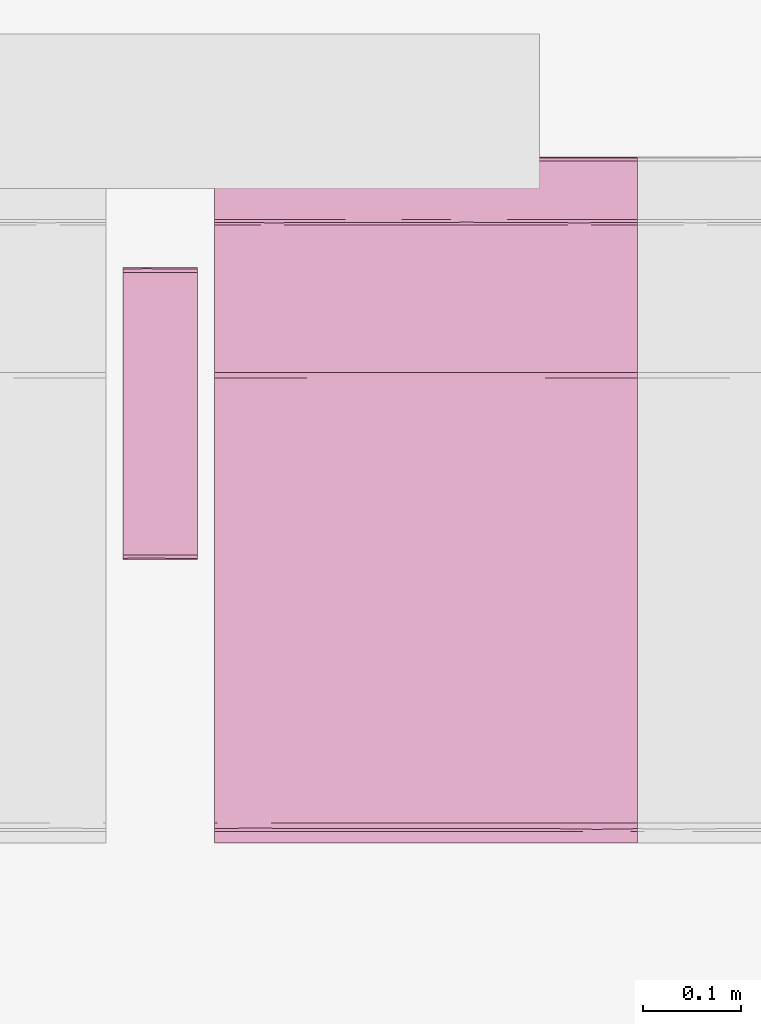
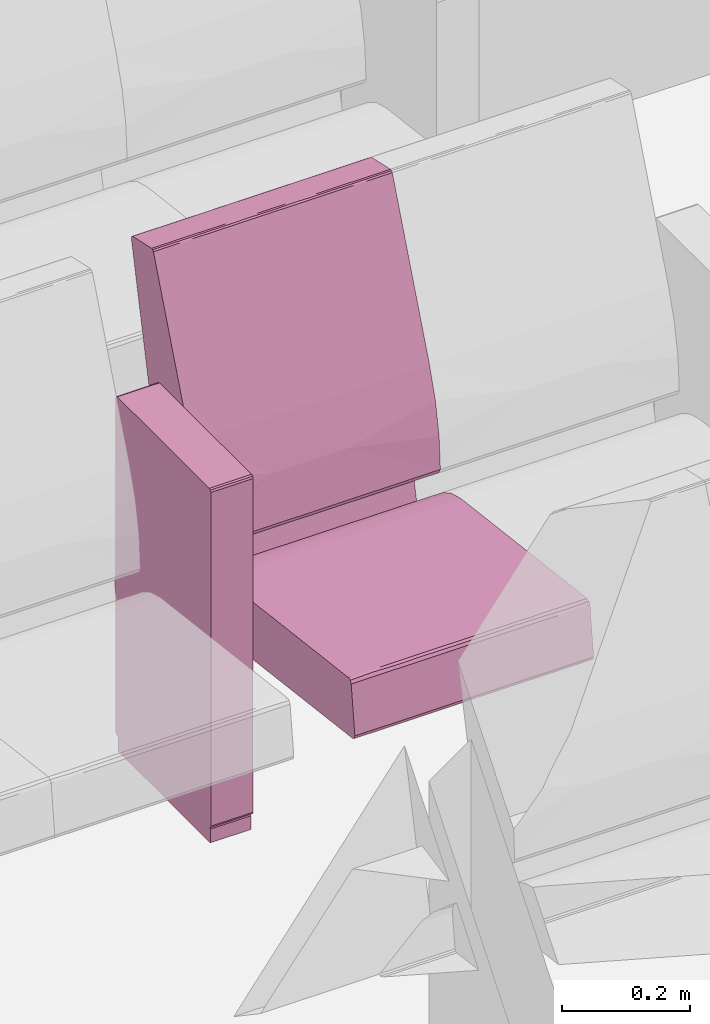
# One storey, part 121 of 155: 1 furnishing.
"""IFC2X3 building model written with IfcOpenShell, lengths in metres."""

from ifc_helpers import new_model, entity, si_unit, converted_unit, derived_unit, direction, frame, origin, place, context, subcontext, project, spatial, faceted_brep, source, transform, mapped, material, material_list, type_object, type_shapes, element, save


model = new_model("IFC2X3")

# Units and contexts
model_context = context("Model", 3, precision=1e-05, world=origin(), true_north=direction((6.12303176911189e-17, 1.0)))
body_context = subcontext(model_context, "Body", "Model", "MODEL_VIEW")
ifc_project = project(units=[si_unit("LENGTHUNIT", "METRE"), si_unit("AREAUNIT", "SQUARE_METRE"), si_unit("VOLUMEUNIT", "CUBIC_METRE"), converted_unit("PLANEANGLEUNIT", "DEGREE", entity("IfcRatioMeasure", 0.0174532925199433), si_unit("PLANEANGLEUNIT", "RADIAN"), dimensions=[0, 0, 0, 0, 0, 0, 0]), si_unit("MASSUNIT", "GRAM", prefix="KILO"), derived_unit("MASSDENSITYUNIT", [(si_unit("MASSUNIT", "GRAM", prefix="KILO"), 1), (si_unit("LENGTHUNIT", "METRE"), -3)]), si_unit("TIMEUNIT", "SECOND"), si_unit("FREQUENCYUNIT", "HERTZ"), si_unit("THERMODYNAMICTEMPERATUREUNIT", "DEGREE_CELSIUS"), derived_unit("THERMALTRANSMITTANCEUNIT", [(si_unit("MASSUNIT", "GRAM", prefix="KILO"), 1), (si_unit("THERMODYNAMICTEMPERATUREUNIT", "KELVIN"), -1), (si_unit("TIMEUNIT", "SECOND"), -3)]), derived_unit("VOLUMETRICFLOWRATEUNIT", [(si_unit("LENGTHUNIT", "METRE"), 3), (si_unit("TIMEUNIT", "SECOND"), -1)]), si_unit("ELECTRICCURRENTUNIT", "AMPERE"), si_unit("ELECTRICVOLTAGEUNIT", "VOLT"), si_unit("POWERUNIT", "WATT"), si_unit("FORCEUNIT", "NEWTON", prefix="KILO"), si_unit("ILLUMINANCEUNIT", "LUX"), si_unit("LUMINOUSFLUXUNIT", "LUMEN"), si_unit("LUMINOUSINTENSITYUNIT", "CANDELA"), derived_unit("USERDEFINED", [(si_unit("MASSUNIT", "GRAM", prefix="KILO"), -1), (si_unit("LENGTHUNIT", "METRE"), -2), (si_unit("TIMEUNIT", "SECOND"), 3), (si_unit("LUMINOUSFLUXUNIT", "LUMEN"), 1)]), derived_unit("LINEARVELOCITYUNIT", [(si_unit("LENGTHUNIT", "METRE"), 1), (si_unit("TIMEUNIT", "SECOND"), -1)]), si_unit("PRESSUREUNIT", "PASCAL"), derived_unit("USERDEFINED", [(si_unit("LENGTHUNIT", "METRE"), -2), (si_unit("MASSUNIT", "GRAM", prefix="KILO"), 1), (si_unit("TIMEUNIT", "SECOND"), -2)])], contexts=[model_context])

# Site, building, storey, space
site_placement = place(None, frame((26.9889013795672, -17.5624287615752, 0.0)))
site = spatial("IfcSite", under=ifc_project, at=site_placement, Name="Default", CompositionType="ELEMENT")
building_placement = place(site_placement, origin())
building = spatial("IfcBuilding", under=site, at=building_placement, Name="C. C. L. Monsenhor Antônio Sampaio", CompositionType="ELEMENT")
storey_placement = place(building_placement, frame((0.0, 0.0, 1.19999999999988)))
storey = spatial("IfcBuildingStorey", under=building, at=storey_placement, Name="Nível 1.2", CompositionType="ELEMENT", Elevation=1.19999999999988)
space_placement = place(storey_placement, origin())
space = spatial("IfcSpace", under=storey, at=space_placement, Name="94", CompositionType="ELEMENT", InteriorOrExteriorSpace="INTERNAL")

# Furnishing
ifc_material_1 = material(Name="V9 - V9 - Ecopelle_672_658")
ifc_material_2 = material(Name="V9 - V9 - RAL_9006_Grigio")
ifc_material_list_1 = material_list([ifc_material_1, ifc_material_2])
ifc_material_list_2 = material_list([ifc_material_1, ifc_material_2])
furniture_type = type_object("IfcFurnitureType", Name="Cadeira auditório", material=ifc_material_list_2)
shared_shape = source(origin(), body_context, "Body", "Brep", [
    faceted_brep([(0.405536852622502, 0.156348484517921, 0.339809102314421), (0.410560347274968, 0.131924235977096, 0.34246450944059), (0.405536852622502, 0.1075, 0.339809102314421), (0.405536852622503, 0.0537499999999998, 0.339809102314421), (0.410597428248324, 0.084060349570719, 0.342506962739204), (0.41079981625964, 0.0179166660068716, 0.342749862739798), (0.405536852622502, 0.215, 0.339809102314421), (0.410248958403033, 0.173608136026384, 0.342130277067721), (0.412515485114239, 0.185674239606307, 0.348529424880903), (0.412515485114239, 0.143333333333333, 0.348529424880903), (0.410560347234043, -0.131924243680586, 0.342464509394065), (0.405536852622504, -0.156348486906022, 0.33980910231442), (0.405536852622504, -0.1075, 0.33980910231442), (0.405536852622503, 0.0, 0.33980910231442), (0.41251548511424, 0.0, 0.348529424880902), (0.411170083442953, -0.0341365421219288, 0.343251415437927), (0.41059742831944, -0.0840603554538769, 0.342506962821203), (0.41251548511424, -0.143333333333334, 0.348529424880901), (0.412515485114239, 0.0358333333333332, 0.348529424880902), (0.412515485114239, 0.0716666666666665, 0.348529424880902), (0.405536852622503, -0.0537500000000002, 0.33980910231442), (0.412515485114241, -0.185674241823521, 0.348529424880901), (0.410799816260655, -0.215, 0.342749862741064), (0.410248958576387, -0.173608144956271, 0.342130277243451), (0.410799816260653, 0.215, 0.342749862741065), (0.412515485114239, 0.215, 0.348529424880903), (0.412515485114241, -0.215, 0.348529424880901), (0.41251548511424, -0.0716666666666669, 0.348529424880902), (0.405536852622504, -0.215, 0.33980910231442), (-0.0557900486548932, -0.215, 0.28268145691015), (-0.055790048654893, -0.168631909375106, 0.282681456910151), (-0.0557900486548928, -0.138065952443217, 0.282681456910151), (-0.0557900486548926, -0.107499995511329, 0.282681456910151), (-0.0557900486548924, -0.0806249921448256, 0.282681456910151), (-0.0557900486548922, -0.0537499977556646, 0.282681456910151), (-0.0557900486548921, -0.0268750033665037, 0.282681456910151), (-0.0557900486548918, 0.0, 0.28268145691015), (-0.0557900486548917, 0.0268749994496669, 0.282681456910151), (-0.0557900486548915, 0.0537499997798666, 0.282681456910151), (-0.0557900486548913, 0.0806250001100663, 0.282681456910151), (-0.0557900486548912, 0.107499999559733, 0.282681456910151), (-0.055790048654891, 0.134374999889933, 0.282681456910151), (-0.0557900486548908, 0.161250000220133, 0.282681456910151), (-0.0557900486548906, 0.1881249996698, 0.282681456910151), (-0.0557900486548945, 0.215, 0.28268145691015), (-0.0594787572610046, -0.0152829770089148, 0.283700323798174), (-0.0613666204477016, 0.0, 0.287029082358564), (-0.0594787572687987, 0.0179017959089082, 0.283700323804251), (-0.0613666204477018, 0.191815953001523, 0.287029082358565), (-0.0613666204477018, 0.215, 0.287029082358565), (-0.0594787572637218, 0.215, 0.283700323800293), (-0.0593340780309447, 0.0671874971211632, 0.283591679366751), (-0.0613666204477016, 0.030565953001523, 0.287029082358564), (-0.0594787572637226, -0.215, 0.283700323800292), (-0.0593337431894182, -0.184174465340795, 0.283591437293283), (-0.0613666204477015, -0.122263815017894, 0.287029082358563), (-0.0613666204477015, -0.0916978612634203, 0.287029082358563), (-0.0613666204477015, -0.0611319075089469, 0.287029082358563), (-0.0593023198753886, -0.0940625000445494, 0.283568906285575), (-0.059382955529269, 0.118123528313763, 0.28362747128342), (-0.0613666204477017, 0.122263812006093, 0.287029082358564), (-0.0597338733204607, 0.147039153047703, 0.283913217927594), (-0.0613666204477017, 0.168631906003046, 0.287029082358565), (-0.0592501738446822, 0.180223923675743, 0.283532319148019), (-0.0588783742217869, 0.0926899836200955, 0.283298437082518), (-0.0613666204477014, -0.215, 0.287029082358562), (-0.0613666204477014, -0.168631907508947, 0.287029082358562), (-0.0592576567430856, -0.123736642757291, 0.283537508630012), (-0.0594787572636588, -0.153348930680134, 0.283700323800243), (-0.0613666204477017, 0.0916978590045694, 0.287029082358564), (-0.0613666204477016, -0.0305659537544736, 0.287029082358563), (-0.059645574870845, -0.045848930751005, 0.283836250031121), (-0.0613666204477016, 0.0611319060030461, 0.287029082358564), (-0.069340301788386, -0.215, 0.351419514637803), (-0.0693403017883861, -0.143333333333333, 0.351419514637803), (-0.0693403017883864, -0.0716666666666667, 0.351419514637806), (-0.0693403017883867, 0.0, 0.351419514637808), (-0.069340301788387, 0.0716666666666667, 0.351419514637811), (-0.0693403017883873, 0.143333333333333, 0.351419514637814), (-0.0693403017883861, 0.215, 0.351419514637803), (-0.0597085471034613, 0.0, 0.37476954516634), (-0.0645543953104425, 0.112272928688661, 0.369803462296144), (-0.0653387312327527, 0.0126787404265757, 0.368680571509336), (-0.0681665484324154, -0.0888707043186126, 0.36292533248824), (-0.0655136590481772, -0.10440004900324, 0.368411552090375), (-0.0694879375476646, 0.0590582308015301, 0.356377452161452), (-0.0695056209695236, -0.125492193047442, 0.356093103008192), (-0.0597085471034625, -0.110316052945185, 0.374769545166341), (-0.0690003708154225, 0.132942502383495, 0.359900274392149), (-0.0672851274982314, 0.108066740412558, 0.365148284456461), (-0.0676206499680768, 0.215, 0.364371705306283), (-0.0686241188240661, 0.215, 0.356813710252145), (-0.0686241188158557, -0.214999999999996, 0.356813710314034), (-0.0686999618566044, 0.0358333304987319, 0.36116674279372), (-0.0694502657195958, -0.0358333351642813, 0.356863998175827), (-0.0676206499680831, -0.214999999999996, 0.364371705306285), (-0.0636645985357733, -0.214999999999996, 0.369570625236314), (-0.0597085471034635, -0.214999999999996, 0.374769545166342), (-0.0597085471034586, 0.215, 0.374769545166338), (-0.0636645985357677, 0.215, 0.36957062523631), (-0.0597085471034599, 0.110316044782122, 0.374769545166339), (-0.0324117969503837, 0.215, 0.390639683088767), (-0.0324117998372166, 0.0436847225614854, 0.39063968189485), (-0.0018793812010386, 0.215, 0.398686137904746), (-0.041847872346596, -0.0856576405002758, 0.386239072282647), (-0.0324117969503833, -0.215, 0.390639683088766), (-0.00187938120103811, -0.215, 0.398686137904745), (-0.00187938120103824, -0.102488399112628, 0.398686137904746), (-0.0219042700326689, -0.0570631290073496, 0.394412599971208), (-0.00187938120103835, 0.0, 0.398686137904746), (0.392202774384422, 0.215, 0.447486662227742), (0.392202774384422, -0.215, 0.447486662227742), (0.392202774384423, -0.156349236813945, 0.447486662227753), (0.392202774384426, -0.107499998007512, 0.447486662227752), (0.392202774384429, -0.0537500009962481, 0.44748666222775), (0.392202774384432, 0.0, 0.447486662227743), (0.392202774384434, 0.0537499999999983, 0.447486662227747), (0.392202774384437, 0.107499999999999, 0.447486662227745), (0.392202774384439, 0.156349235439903, 0.447486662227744), (0.398104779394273, -0.131924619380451, 0.445856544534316), (0.401125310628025, -0.0976984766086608, 0.440530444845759), (0.397860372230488, -0.0827732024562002, 0.446039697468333), (0.401125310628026, -0.215000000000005, 0.440530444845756), (0.401125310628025, -0.156349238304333, 0.440530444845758), (0.397373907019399, -0.173462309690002, 0.446363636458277), (0.398104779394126, -0.215000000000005, 0.445856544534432), (0.397860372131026, 0.0827731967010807, 0.446039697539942), (0.398104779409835, 0.131924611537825, 0.445856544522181), (0.398104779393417, -0.0237489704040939, 0.445856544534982), (0.398104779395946, 0.0268749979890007, 0.445856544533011), (0.401125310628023, 0.0488492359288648, 0.440530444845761), (0.401125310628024, -0.0488492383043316, 0.440530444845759), (0.398774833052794, 0.173462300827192, 0.445271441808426), (0.401125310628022, 0.097698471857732, 0.440530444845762), (0.401125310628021, 0.215, 0.440530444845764), (0.39810477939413, 0.215, 0.445856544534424), (0.401125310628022, 0.156349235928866, 0.440530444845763), (0.401125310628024, 0.0, 0.44053044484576)], [[[0, 1, 2]], [[3, 4, 5]], [[6, 7, 0]], [[7, 8, 9]], [[10, 11, 12]], [[3, 5, 13]], [[14, 15, 5]], [[16, 17, 10]], [[9, 1, 7]], [[18, 5, 4]], [[4, 9, 19, 18]], [[9, 4, 1]], [[2, 1, 4]], [[13, 15, 20]], [[21, 22, 23]], [[5, 18, 14]], [[24, 25, 8]], [[22, 21, 26]], [[24, 7, 6]], [[23, 11, 10]], [[20, 15, 16]], [[3, 2, 4]], [[14, 27, 15]], [[5, 15, 13]], [[27, 17, 16]], [[10, 12, 16]], [[21, 23, 17]], [[20, 16, 12]], [[15, 27, 16]], [[7, 1, 0]], [[28, 11, 23]], [[8, 7, 24]], [[23, 10, 17]], [[28, 23, 22]], [[28, 29, 30, 31, 32, 33, 34, 35, 36, 37, 38, 39, 40, 41, 42, 43, 44, 6, 0, 2, 3, 13, 20, 12, 11]], [[45, 46, 47]], [[48, 49, 50]], [[51, 47, 52]], [[29, 53, 54]], [[55, 56, 57, 58]], [[59, 60, 61]], [[61, 62, 63]], [[51, 64, 39]], [[65, 66, 54]], [[31, 67, 32]], [[45, 47, 38, 37, 36, 35]], [[68, 31, 30]], [[43, 50, 44]], [[63, 42, 61]], [[48, 50, 63]], [[64, 69, 59]], [[68, 54, 66]], [[63, 62, 48]], [[50, 43, 63]], [[67, 55, 58]], [[61, 42, 41]], [[45, 70, 46]], [[55, 68, 66]], [[71, 33, 58]], [[71, 57, 70]], [[41, 40, 59]], [[60, 62, 61]], [[71, 35, 34, 33]], [[35, 71, 45]], [[47, 46, 52]], [[45, 71, 70]], [[58, 57, 71]], [[32, 58, 33]], [[31, 68, 67]], [[54, 68, 30]], [[29, 54, 30]], [[54, 53, 65]], [[55, 67, 68]], [[32, 67, 58]], [[51, 52, 72, 69]], [[43, 42, 63]], [[41, 59, 61]], [[47, 51, 38]], [[40, 39, 64]], [[38, 51, 39]], [[69, 60, 59]], [[69, 64, 51]], [[40, 64, 59]], [[65, 73, 74, 75, 76, 77, 78, 79, 49, 48, 62, 60, 69, 72, 52, 46, 70, 57, 56, 55, 66]], [[80, 81, 82]], [[82, 83, 84]], [[78, 77, 76, 85]], [[86, 75, 74]], [[84, 80, 82]], [[80, 84, 87]], [[88, 89, 90]], [[91, 79, 78]], [[74, 73, 92]], [[85, 88, 91]], [[81, 89, 82]], [[93, 94, 83]], [[94, 86, 83]], [[85, 76, 94]], [[92, 86, 74]], [[85, 94, 93]], [[83, 92, 95]], [[75, 94, 76]], [[93, 83, 82]], [[95, 96, 84]], [[88, 85, 93]], [[96, 97, 87]], [[98, 99, 100]], [[78, 85, 91]], [[89, 88, 93]], [[90, 91, 88]], [[93, 82, 89]], [[81, 99, 89]], [[99, 90, 89]], [[100, 81, 80]], [[100, 99, 81]], [[83, 86, 92]], [[75, 86, 94]], [[95, 84, 83]], [[87, 84, 96]], [[101, 102, 103]], [[104, 80, 87, 97]], [[105, 106, 107]], [[107, 108, 105]], [[103, 102, 109]], [[104, 102, 80]], [[104, 108, 102]], [[98, 102, 101]], [[105, 104, 97]], [[105, 108, 104]], [[102, 98, 100, 80]], [[109, 108, 107]], [[109, 102, 108]], [[110, 103, 109, 107, 106, 111, 112, 113, 114, 115, 116, 117, 118]], [[119, 120, 121]], [[122, 123, 124]], [[111, 125, 124]], [[117, 116, 126]], [[124, 119, 112]], [[113, 112, 119]], [[127, 118, 117]], [[115, 114, 128, 129, 116]], [[129, 130, 126]], [[121, 131, 128]], [[127, 132, 118]], [[110, 118, 132]], [[127, 126, 133]], [[119, 124, 123]], [[134, 135, 132]], [[136, 132, 127]], [[120, 119, 123]], [[133, 136, 127]], [[137, 130, 129, 128, 131]], [[126, 127, 117]], [[130, 133, 126]], [[113, 119, 121]], [[129, 126, 116]], [[128, 114, 121]], [[114, 113, 121]], [[131, 121, 120]], [[111, 124, 112]], [[124, 125, 122]], [[134, 132, 136]], [[132, 135, 110]], [[19, 9, 8, 25, 134, 136, 133, 130, 137, 131, 120, 123, 122, 26, 21, 17, 27, 14, 18]], [[65, 53, 29, 28, 22, 26, 122, 125, 111, 106, 105, 97, 96, 95, 92, 73]], [[98, 101, 103, 110, 135, 134, 25, 24, 6, 44, 50, 49, 79, 91, 90, 99]]]),
    faceted_brep([(0.123144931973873, -0.283972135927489, 0.673627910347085), (0.12334838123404, -0.259944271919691, 0.6734355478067), (0.119812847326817, -0.27, 0.674900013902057), (0.124812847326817, -0.27, 0.669900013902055), (0.12334838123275, -0.232, 0.673435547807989), (0.119812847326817, -0.232, 0.674900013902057), (0.124812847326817, -0.308, 0.669900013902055), (0.119812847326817, -0.308, 0.674900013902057), (0.124812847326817, -0.249888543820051, 0.669900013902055), (0.124812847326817, -0.232, 0.669900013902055), (0.12334838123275, -0.308, 0.673435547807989), (0.124812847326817, -0.27, 0.035), (0.124812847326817, -0.232, 0.035), (0.124812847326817, -0.308, 0.0350000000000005), (0.123540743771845, -0.283972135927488, 0.0316679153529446), (0.12334838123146, -0.25994427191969, 0.0314644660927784), (0.119812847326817, -0.27, 0.0300000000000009), (0.12334838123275, -0.232, 0.0314644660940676), (0.119812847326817, -0.308, 0.0300000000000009), (0.119812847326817, -0.249888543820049, 0.030000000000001), (0.119812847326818, -0.232, 0.030000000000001), (0.123348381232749, -0.308, 0.0314644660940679), (-0.167179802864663, -0.308, 0.0300000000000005), (-0.167179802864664, -0.27, 0.0300000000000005), (-0.167179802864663, -0.232, 0.0300000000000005), (-0.17051188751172, -0.283972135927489, 0.0312721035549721), (-0.170715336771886, -0.25994427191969, 0.0314644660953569), (-0.172179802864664, -0.27, 0.0350000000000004), (-0.170715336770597, -0.232, 0.0314644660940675), (-0.172179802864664, -0.308, 0.0350000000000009), (-0.172179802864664, -0.24988854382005, 0.0350000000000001), (-0.172179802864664, -0.232, 0.0349999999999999), (-0.170715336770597, -0.308, 0.0314644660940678), (-0.172179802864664, -0.308, 0.669900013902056), (-0.172179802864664, -0.27, 0.669900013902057), (-0.172179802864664, -0.232, 0.669900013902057), (-0.170907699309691, -0.283972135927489, 0.673232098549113), (-0.170715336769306, -0.259944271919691, 0.673435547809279), (-0.167179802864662, -0.27, 0.674900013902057), (-0.170715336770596, -0.232, 0.67343554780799), (-0.167179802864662, -0.308, 0.674900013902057), (-0.167179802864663, -0.249888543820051, 0.674900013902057), (-0.167179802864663, -0.232, 0.674900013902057), (-0.170715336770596, -0.308, 0.67343554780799)], [[[0, 1, 2]], [[1, 0, 3]], [[1, 4, 5, 2]], [[6, 3, 0]], [[7, 0, 2]], [[4, 1, 3, 8, 9]], [[10, 0, 7]], [[0, 10, 6]], [[11, 12, 9, 8, 3, 6, 13]], [[14, 15, 11]], [[15, 14, 16]], [[15, 17, 12, 11]], [[18, 16, 14]], [[13, 14, 11]], [[17, 15, 16, 19, 20]], [[21, 14, 13]], [[14, 21, 18]], [[18, 22, 23, 24, 20, 19, 16]], [[25, 26, 23]], [[26, 25, 27]], [[26, 28, 24, 23]], [[29, 27, 25]], [[22, 25, 23]], [[28, 26, 27, 30, 31]], [[32, 25, 22]], [[25, 32, 29]], [[27, 29, 33, 34, 35, 31, 30]], [[36, 37, 34]], [[37, 36, 38]], [[37, 39, 35, 34]], [[40, 38, 36]], [[33, 36, 34]], [[39, 37, 38, 41, 42]], [[43, 36, 33]], [[36, 43, 40]], [[40, 7, 2, 5, 42, 41, 38]], [[35, 39, 42, 5, 4, 9, 12, 17, 20, 24, 28, 31]], [[29, 32, 22, 18, 21, 13, 6, 10, 7, 40, 43, 33]]]),
    faceted_brep([(-0.0695672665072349, 0.215, 0.476508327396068), (-0.074405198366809, 0.0524423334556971, 0.506888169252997), (-0.0655618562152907, 0.215, 0.415143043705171), (-0.0744051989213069, -0.0780075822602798, 0.506888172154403), (-0.0655618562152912, 0.0, 0.415143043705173), (-0.0655618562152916, -0.215, 0.415143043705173), (-0.0655618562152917, -0.1075, 0.415143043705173), (-0.0655618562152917, 0.1075, 0.415143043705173), (-0.0695672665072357, -0.215, 0.476508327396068), (-0.081111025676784, -0.215, 0.536911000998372), (-0.0811110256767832, 0.215, 0.536911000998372), (-0.100016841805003, 0.215, 0.595428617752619), (-0.100016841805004, 0.0, 0.595428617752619), (-0.100016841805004, -0.215, 0.595428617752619), (-0.0698317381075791, 0.0358333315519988, 0.406528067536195), (-0.0792851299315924, 0.0, 0.404772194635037), (-0.0792851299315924, 0.0716666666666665, 0.404772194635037), (-0.0792851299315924, -0.215, 0.404772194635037), (-0.0792851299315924, -0.143333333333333, 0.404772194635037), (-0.0698317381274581, -0.215, 0.406528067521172), (-0.0792851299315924, 0.143333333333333, 0.404772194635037), (-0.0792851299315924, 0.215, 0.404772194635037), (-0.0698317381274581, 0.215, 0.406528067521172), (-0.0694171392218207, 0.140338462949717, 0.406857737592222), (-0.0708115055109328, -0.0356393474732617, 0.405868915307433), (-0.0703502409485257, -0.107500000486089, 0.406159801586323), (-0.0792851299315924, -0.0716666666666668, 0.404772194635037), (-0.163837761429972, -0.215, 0.420611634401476), (-0.163837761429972, 0.215, 0.420611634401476), (-0.123612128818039, 0.215, 0.235917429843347), (-0.123612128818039, -0.215, 0.235917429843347), (-0.142059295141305, -0.215, 0.231899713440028), (-0.142059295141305, 0.215, 0.231899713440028), (-0.235388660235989, -0.215, 0.652619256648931), (-0.235388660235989, 0.215, 0.652619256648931), (-0.28428001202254, -0.215, 0.873004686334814), (-0.284280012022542, -0.191295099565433, 0.873004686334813), (-0.284280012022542, -0.161249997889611, 0.873004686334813), (-0.284280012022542, -0.134374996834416, 0.873004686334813), (-0.284280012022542, -0.107499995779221, 0.873004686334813), (-0.284280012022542, -0.0806249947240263, 0.873004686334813), (-0.284280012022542, -0.0537499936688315, 0.873004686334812), (-0.284280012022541, -0.0268749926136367, 0.873004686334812), (-0.28428001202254, 0.0, 0.873004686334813), (-0.284280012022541, 0.0268749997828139, 0.873004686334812), (-0.284280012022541, 0.0537500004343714, 0.873004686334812), (-0.284280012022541, 0.0806250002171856, 0.873004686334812), (-0.284280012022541, 0.1075, 0.873004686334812), (-0.284280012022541, 0.134374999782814, 0.873004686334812), (-0.28428001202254, 0.161249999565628, 0.873004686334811), (-0.28428001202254, 0.191295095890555, 0.873004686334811), (-0.28428001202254, 0.215, 0.873004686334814), (-0.283746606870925, 0.0872244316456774, 0.876674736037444), (-0.283504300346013, 0.0569644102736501, 0.877068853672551), (-0.283567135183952, -0.15546176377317, 0.876973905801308), (-0.283641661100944, -0.12093750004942, 0.87685511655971), (-0.283567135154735, 0.155461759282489, 0.876973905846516), (-0.28330409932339, 0.185293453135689, 0.877344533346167), (-0.283641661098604, 0.0179166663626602, 0.876855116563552), (-0.283641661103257, -0.0136463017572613, 0.876855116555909), (-0.280514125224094, -0.0358333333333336, 0.879190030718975), (-0.280514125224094, 0.0, 0.879190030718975), (-0.280514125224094, 0.0358333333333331, 0.879190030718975), (-0.280514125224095, -0.143333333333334, 0.879190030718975), (-0.280514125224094, -0.1075, 0.879190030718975), (-0.280514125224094, -0.071666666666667, 0.879190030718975), (-0.283746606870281, -0.0872244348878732, 0.876674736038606), (-0.280514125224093, 0.0716666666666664, 0.879190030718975), (-0.280514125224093, 0.1075, 0.879190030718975), (-0.283641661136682, 0.120937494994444, 0.876855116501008), (-0.280514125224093, 0.143333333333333, 0.879190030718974), (-0.283641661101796, 0.215, 0.876855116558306), (-0.283641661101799, -0.215, 0.876855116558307), (-0.283304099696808, -0.18529345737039, 0.877344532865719), (-0.280514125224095, -0.167590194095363, 0.879190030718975), (-0.280514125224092, 0.215, 0.879190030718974), (-0.280514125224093, 0.167590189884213, 0.879190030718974), (-0.280514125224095, -0.215, 0.879190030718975), (-0.283504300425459, -0.0569644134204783, 0.8770688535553), (-0.22111253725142, 0.215, 0.892176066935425), (-0.22111253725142, -0.215, 0.892176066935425), (-0.221112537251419, -0.191815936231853, 0.892176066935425), (-0.221112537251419, -0.161250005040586, 0.892176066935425), (-0.221112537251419, -0.134375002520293, 0.892176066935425), (-0.221112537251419, -0.1075, 0.892176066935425), (-0.221112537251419, -0.080624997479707, 0.892176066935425), (-0.221112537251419, -0.0537499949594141, 0.892176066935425), (-0.221112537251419, -0.0268750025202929, 0.892176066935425), (-0.221112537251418, 0.0, 0.892176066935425), (-0.221112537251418, 0.0268750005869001, 0.892176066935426), (-0.221112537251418, 0.05375000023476, 0.892176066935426), (-0.221112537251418, 0.0806249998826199, 0.892176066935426), (-0.221112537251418, 0.10749999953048, 0.892176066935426), (-0.221112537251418, 0.13437499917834, 0.892176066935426), (-0.221112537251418, 0.16124999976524, 0.892176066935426), (-0.221112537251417, 0.19181594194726, 0.892176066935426), (-0.215419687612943, 0.0, 0.889191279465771), (-0.215419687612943, 0.0358333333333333, 0.889191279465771), (-0.217722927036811, 0.0162353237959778, 0.891719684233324), (-0.217722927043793, -0.0134375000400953, 0.891719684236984), (-0.215419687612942, -0.191815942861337, 0.889191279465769), (-0.215419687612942, -0.168631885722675, 0.889191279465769), (-0.217722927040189, -0.182482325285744, 0.891719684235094), (-0.217722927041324, -0.215, 0.891719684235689), (-0.215419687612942, -0.215, 0.889191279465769), (-0.215419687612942, -0.1075, 0.88919127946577), (-0.215419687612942, -0.0716666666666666, 0.88919127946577), (-0.217722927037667, -0.0912646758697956, 0.891719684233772), (-0.217722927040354, -0.120937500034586, 0.89171968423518), (-0.215419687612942, -0.143333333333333, 0.88919127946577), (-0.215419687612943, 0.191815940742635, 0.889191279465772), (-0.215419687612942, 0.215, 0.889191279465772), (-0.217722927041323, 0.215, 0.89171968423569), (-0.217722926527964, 0.190103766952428, 0.891719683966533), (-0.217722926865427, 0.0912646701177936, 0.891719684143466), (-0.217816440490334, 0.0647800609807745, 0.891767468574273), (-0.215419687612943, 0.0716666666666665, 0.889191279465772), (-0.217816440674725, -0.0647800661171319, 0.891767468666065), (-0.2179983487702, -0.0390825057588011, 0.891853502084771), (-0.217558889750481, -0.155982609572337, 0.891629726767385), (-0.217722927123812, 0.120937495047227, 0.891719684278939), (-0.215419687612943, 0.16863188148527, 0.889191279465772), (-0.215419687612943, 0.143333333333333, 0.889191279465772), (-0.217558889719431, 0.15598260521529, 0.891629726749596), (-0.215419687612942, -0.0358333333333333, 0.889191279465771), (-0.215419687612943, 0.1075, 0.889191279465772), (-0.218257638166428, 0.0404491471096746, 0.891961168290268)], [[[0, 1, 2]], [[1, 3, 4]], [[3, 5, 6, 4]], [[1, 4, 7, 2]], [[5, 3, 8]], [[8, 3, 9]], [[0, 10, 1]], [[11, 12, 1]], [[3, 13, 9]], [[3, 12, 13]], [[11, 1, 10]], [[3, 1, 12]], [[14, 15, 16]], [[17, 18, 19]], [[20, 21, 22]], [[2, 23, 22]], [[14, 7, 4]], [[14, 24, 15]], [[6, 25, 24]], [[22, 23, 20]], [[14, 23, 7]], [[19, 6, 5]], [[4, 24, 14]], [[16, 23, 14]], [[16, 20, 23]], [[26, 25, 18]], [[25, 19, 18]], [[15, 24, 26]], [[23, 2, 7]], [[19, 25, 6]], [[26, 24, 25]], [[6, 24, 4]], [[15, 26, 18, 17, 27, 28, 21, 20, 16]], [[29, 28, 27, 30]], [[30, 31, 32, 29]], [[32, 31, 33, 34]], [[34, 33, 35, 36, 37, 38, 39, 40, 41, 42, 43, 44, 45, 46, 47, 48, 49, 50, 51]], [[52, 46, 53]], [[38, 54, 55]], [[56, 57, 49]], [[58, 59, 60, 61, 62]], [[63, 64, 55]], [[64, 65, 66]], [[52, 67, 68]], [[69, 70, 56]], [[49, 57, 50]], [[38, 55, 39]], [[71, 51, 50]], [[36, 35, 72]], [[59, 58, 44, 43, 42]], [[73, 74, 54]], [[55, 66, 39]], [[75, 57, 76]], [[77, 74, 73]], [[69, 52, 68]], [[37, 36, 73]], [[54, 74, 63]], [[56, 76, 57]], [[36, 72, 73]], [[75, 71, 57]], [[70, 76, 56]], [[52, 69, 47]], [[48, 47, 69]], [[42, 78, 59]], [[66, 55, 64]], [[50, 57, 71]], [[73, 54, 37]], [[77, 73, 72]], [[48, 69, 56]], [[56, 49, 48]], [[69, 68, 70]], [[53, 46, 45, 44]], [[58, 62, 53]], [[53, 44, 58]], [[38, 37, 54]], [[63, 55, 54]], [[78, 66, 65]], [[78, 40, 66]], [[67, 52, 53]], [[78, 42, 41, 40]], [[65, 60, 78]], [[59, 78, 60]], [[52, 47, 46]], [[40, 39, 66]], [[62, 67, 53]], [[79, 75, 76, 70, 68, 67, 62, 61, 60, 65, 64, 63, 74, 77, 80, 81, 82, 83, 84, 85, 86, 87, 88, 89, 90, 91, 92, 93, 94, 95]], [[96, 97, 98, 99]], [[100, 101, 102, 103, 104]], [[105, 106, 107, 108, 109]], [[110, 111, 112]], [[113, 112, 95]], [[114, 115, 116]], [[117, 118, 86]], [[82, 119, 83]], [[102, 82, 81, 80, 103]], [[112, 79, 95]], [[108, 107, 85, 84, 83]], [[88, 87, 99, 98, 89]], [[119, 101, 109]], [[93, 92, 120]], [[117, 85, 107]], [[113, 121, 110]], [[122, 121, 123]], [[113, 94, 123]], [[124, 99, 118]], [[122, 123, 120]], [[108, 119, 109]], [[113, 110, 112]], [[102, 101, 119]], [[119, 108, 83]], [[114, 125, 120]], [[123, 94, 93]], [[93, 120, 123]], [[114, 120, 92]], [[122, 120, 125]], [[117, 107, 106]], [[114, 92, 91]], [[116, 125, 114]], [[115, 91, 90]], [[85, 117, 86]], [[126, 89, 98]], [[117, 106, 124]], [[118, 99, 87]], [[124, 96, 99]], [[97, 116, 115]], [[97, 115, 126]], [[86, 118, 87]], [[124, 118, 117]], [[91, 115, 114]], [[115, 90, 126]], [[89, 126, 90]], [[97, 126, 98]], [[82, 102, 119]], [[94, 113, 95]], [[121, 113, 123]], [[11, 111, 110, 121, 122, 125, 116, 97, 96, 124, 106, 105, 109, 101, 100, 104, 13, 12]], [[27, 17, 19, 5, 8, 9, 13, 104, 103, 80, 77, 72, 35, 33, 31, 30]], [[51, 71, 75, 79, 112, 111, 11, 10, 0, 2, 22, 21, 28, 29, 32, 34]]]),
    faceted_brep([(0.120312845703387, -0.2335, 0.0), (0.120312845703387, -0.2335, 0.0260000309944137), (0.120312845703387, -0.249500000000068, 0.0260000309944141), (0.120312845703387, -0.27, 0.0260000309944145), (0.120312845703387, -0.3065, 0.0260000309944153), (0.120312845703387, -0.3065, 0.0), (-0.167687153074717, -0.3065, 0.0), (-0.167687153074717, -0.2335, 0.0), (-0.167687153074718, -0.27, 0.0260000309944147), (-0.167687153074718, -0.2335, 0.0260000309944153), (-0.167687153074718, -0.3065, 0.0260000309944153), (-0.166521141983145, -0.233500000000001, 0.0288228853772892), (-0.166521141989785, -0.257382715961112, 0.0288228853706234), (-0.163702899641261, -0.233500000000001, 0.0300000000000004), (-0.163702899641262, -0.3065, 0.0300000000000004), (-0.16652114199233, -0.279986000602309, 0.0288228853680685), (-0.166521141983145, -0.3065, 0.0288228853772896), (-0.163702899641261, -0.27, 0.0300000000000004), (0.116297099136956, -0.3065, 0.0300000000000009), (0.116297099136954, -0.269999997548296, 0.0300000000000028), (0.116297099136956, -0.2335, 0.0300000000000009), (0.119033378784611, -0.283124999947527, 0.0289323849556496), (0.1191357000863, -0.2335, 0.0288340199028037), (0.119135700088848, -0.259750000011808, 0.0288340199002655), (0.119135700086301, -0.3065, 0.0288340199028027)], [[[0, 1, 2, 3, 4, 5]], [[0, 5, 6, 7]], [[8, 9, 7, 6, 10]], [[11, 12, 13]], [[14, 15, 16]], [[15, 14, 17, 13, 12]], [[9, 8, 12, 11]], [[16, 15, 10]], [[8, 10, 15, 12]], [[14, 18, 19, 20, 13, 17]], [[21, 4, 3]], [[22, 20, 19, 23]], [[3, 2, 1, 22, 23]], [[24, 21, 18]], [[21, 3, 23]], [[18, 21, 19]], [[21, 24, 4]], [[21, 23, 19]], [[6, 5, 4, 24, 18, 14, 16, 10]], [[7, 9, 11, 13, 20, 22, 1, 0]]]),
])
type_shapes(furniture_type, [shared_shape])
furnishing_placement = place(space_placement, frame((-11.4859492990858, -11.4021989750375, 0.0), z_axis=(0.0, 0.0, 1.0), x_axis=(0.0, -1.0, 0.0)))
element("IfcFurnishingElement", 1, at=furnishing_placement, inside=space, type_object=furniture_type, material=ifc_material_list_1, Name="cadeira auditório pcd:Cadeira auditório", ObjectType="Cadeira auditório", context=body_context, shape_type="MappedRepresentation", body=[
    mapped(shared_shape, transform((0.0, 0.0, 0.0), scale=1.0)),
])

save(model, "model.ifc")
